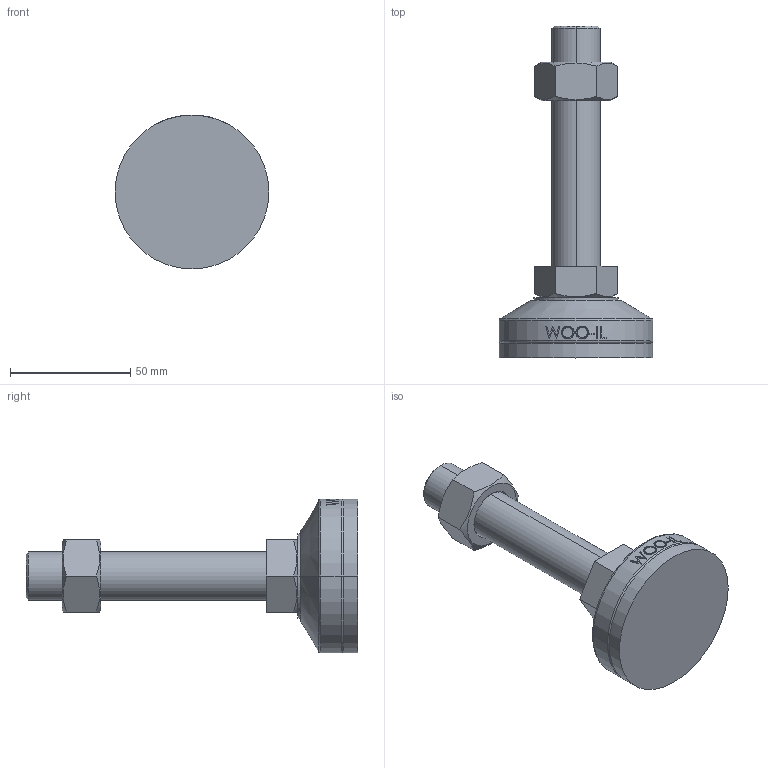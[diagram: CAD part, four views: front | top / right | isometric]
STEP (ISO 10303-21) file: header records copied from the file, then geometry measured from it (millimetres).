
FILE_DESCRIPTION (( 'STEP AP214' ), '1' );
FILE_NAME ('MFR64-M20-100.step', '2021-01-13T05:38:23', ( '' ), ( '' ), 'SwSTEP 2.0', 'SolidWorks 2019', '' );
FILE_SCHEMA (( 'AUTOMOTIVE_DESIGN' ));
Length unit declared in the file: millimetre
Products named in the file (2): MFR64-M20-100
Bounding box: 64 x 138 x 64 mm (x, y, z)
Volume: 117515.4 mm3; surface area: 22934.9 mm2
Topology: 3 solids, 3 shells, 102 faces, 239 edges, 154 vertices
Faces by surface type: plane 48, cylinder 18, bspline 16, cone 14, torus 6
Entity records: 4418 total; most frequent: CARTESIAN_POINT 2143, ORIENTED_EDGE 478, DIRECTION 415, EDGE_CURVE 239, AXIS2_PLACEMENT_3D 158, VERTEX_POINT 154, EDGE_LOOP 115, ADVANCED_FACE 102
